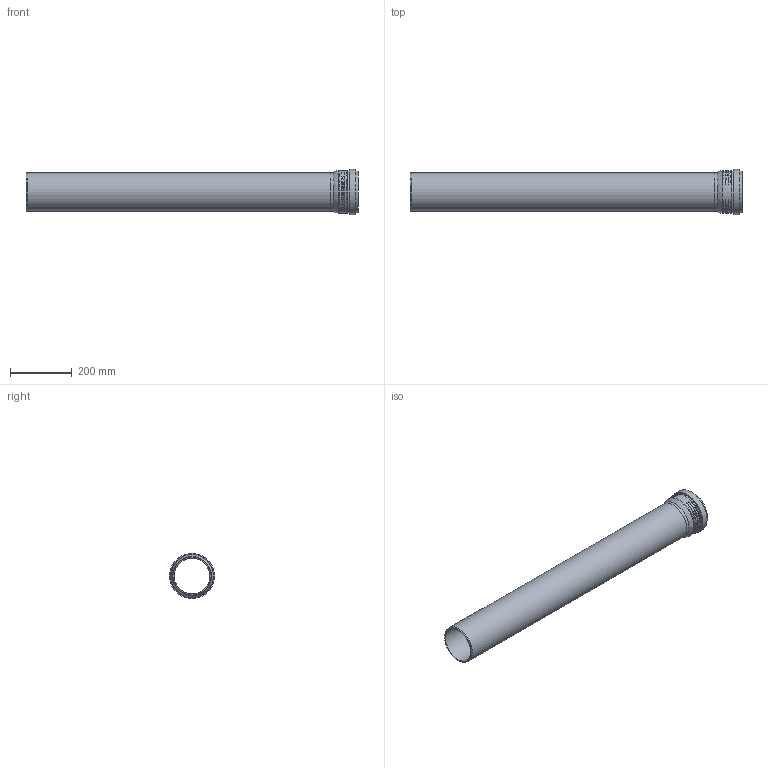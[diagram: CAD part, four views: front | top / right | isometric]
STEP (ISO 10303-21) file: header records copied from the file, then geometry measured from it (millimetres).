
FILE_DESCRIPTION(/* description */ (''),/* implementation_level */ '2;1');
FILE_NAME(/* name */ 'H:\Geberit-Teile\Export\PP_Rohr\stp\393604.stp',/* time_stamp */ '2017-02-13T16:09:34+01:00',/* author */ ('seihe2'),/* organization */ (''),/* preprocessor_version */ 'ST-DEVELOPER v15.2',/* originating_system */ 'Autodesk Inventor 2014',/* authorisation */ '');
FILE_SCHEMA (('AUTOMOTIVE_DESIGN { 1 0 10303 214 3 1 1 }'));
Length unit declared in the file: millimetre
Products named in the file (1): 393604
Bounding box: 1073.9 x 146.35 x 146.35 mm (x, y, z)
Volume: 2057436.9 mm3; surface area: 844425 mm2
Topology: 2 solids, 2 shells, 38 faces, 81 edges, 56 vertices
Faces by surface type: torus 17, cylinder 10, plane 8, cone 2, bspline 1
Full cylindrical faces by diameter (mm): 115.2 x2, 125.2 x2, 126.2 x1, 129.2 x1, 135.2 x1, 137.75 x1, 138.2 x1, 146.35 x1
Entity records: 2345 total; most frequent: CARTESIAN_POINT 1566, DIRECTION 130, ORIENTED_EDGE 124, EDGE_LOOP 69, AXIS2_PLACEMENT_3D 65, EDGE_CURVE 62, VERTEX_POINT 55, STYLED_ITEM 40
